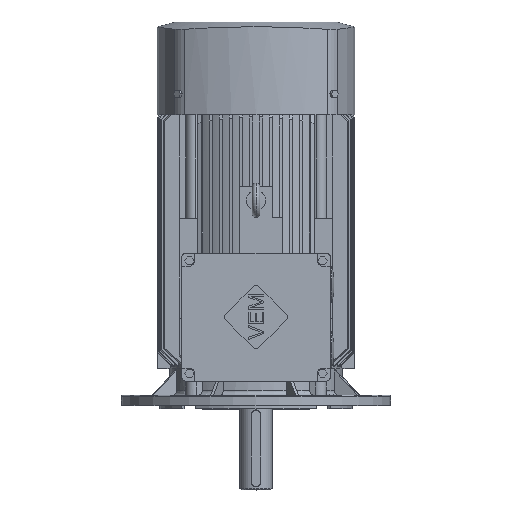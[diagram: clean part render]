
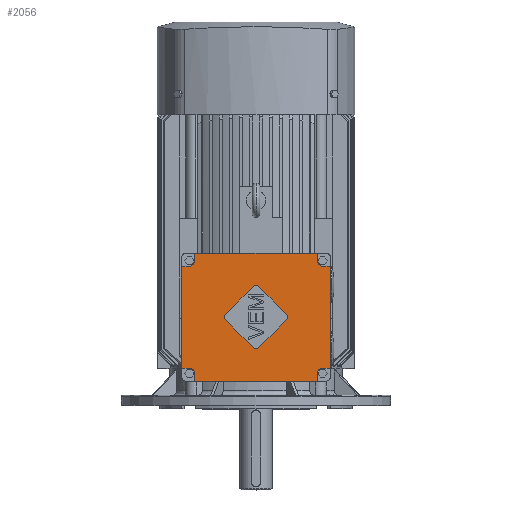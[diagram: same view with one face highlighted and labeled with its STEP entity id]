
A CAD part, top view. The second image highlights one B-rep face of the part: STEP entity #2056.
In plain terms, the highlighted planar face has unit normal (0, 0, 1).
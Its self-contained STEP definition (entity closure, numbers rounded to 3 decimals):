
#2056=ADVANCED_FACE('',(#4177,#4178),#4179,.T.);
#4177=FACE_BOUND('',#6409,.T.);
#4178=FACE_OUTER_BOUND('',#6410,.T.);
#4179=PLANE('',#6411);
#6409=EDGE_LOOP('',(#12812,#12813,#12814,#12815,#12816,#12817,#12818,#12819,#12820,#12821));
#6410=EDGE_LOOP('',(#12822,#12823,#12824,#12825,#12826,#12827,#12828,#12829,#12830,#12831,#12832,#12833,#12834,#12835,#12836,#12837));
#6411=AXIS2_PLACEMENT_3D('',#12838,#12839,#12840);
#12812=ORIENTED_EDGE('',*,*,#15459,.T.);
#12813=ORIENTED_EDGE('',*,*,#15455,.T.);
#12814=ORIENTED_EDGE('',*,*,#15451,.T.);
#12815=ORIENTED_EDGE('',*,*,#15447,.T.);
#12816=ORIENTED_EDGE('',*,*,#15442,.T.);
#12817=ORIENTED_EDGE('',*,*,#15542,.T.);
#12818=ORIENTED_EDGE('',*,*,#15579,.T.);
#12819=ORIENTED_EDGE('',*,*,#15591,.T.);
#12820=ORIENTED_EDGE('',*,*,#15625,.T.);
#12821=ORIENTED_EDGE('',*,*,#15584,.T.);
#12822=ORIENTED_EDGE('',*,*,#15780,.T.);
#12823=ORIENTED_EDGE('',*,*,#15776,.T.);
#12824=ORIENTED_EDGE('',*,*,#15772,.T.);
#12825=ORIENTED_EDGE('',*,*,#15787,.F.);
#12826=ORIENTED_EDGE('',*,*,#15788,.T.);
#12827=ORIENTED_EDGE('',*,*,#15789,.T.);
#12828=ORIENTED_EDGE('',*,*,#15790,.T.);
#12829=ORIENTED_EDGE('',*,*,#15791,.F.);
#12830=ORIENTED_EDGE('',*,*,#15792,.T.);
#12831=ORIENTED_EDGE('',*,*,#15793,.T.);
#12832=ORIENTED_EDGE('',*,*,#15794,.T.);
#12833=ORIENTED_EDGE('',*,*,#15795,.F.);
#12834=ORIENTED_EDGE('',*,*,#15796,.T.);
#12835=ORIENTED_EDGE('',*,*,#15797,.T.);
#12836=ORIENTED_EDGE('',*,*,#15798,.T.);
#12837=ORIENTED_EDGE('',*,*,#15799,.F.);
#12838=CARTESIAN_POINT('',(0.0,66.5,211.0));
#12839=DIRECTION('',(0.0,-0.0,1.0));
#12840=DIRECTION('',(0.0,1.0,0.0));
#15442=EDGE_CURVE('',#19168,#19169,#19170,.T.);
#15447=EDGE_CURVE('',#19177,#19168,#19178,.T.);
#15451=EDGE_CURVE('',#19183,#19177,#19184,.T.);
#15455=EDGE_CURVE('',#19189,#19183,#19190,.T.);
#15459=EDGE_CURVE('',#19195,#19189,#19196,.T.);
#15542=EDGE_CURVE('',#19169,#19324,#19325,.T.);
#15579=EDGE_CURVE('',#19324,#19385,#19386,.T.);
#15584=EDGE_CURVE('',#19391,#19195,#19392,.T.);
#15591=EDGE_CURVE('',#19385,#19401,#19402,.T.);
#15625=EDGE_CURVE('',#19401,#19391,#19443,.T.);
#15772=EDGE_CURVE('',#19653,#19651,#19654,.T.);
#15776=EDGE_CURVE('',#19659,#19653,#19660,.T.);
#15780=EDGE_CURVE('',#19665,#19659,#19666,.T.);
#15787=EDGE_CURVE('',#19675,#19651,#19676,.T.);
#15788=EDGE_CURVE('',#19675,#19677,#19678,.T.);
#15789=EDGE_CURVE('',#19677,#19679,#19680,.T.);
#15790=EDGE_CURVE('',#19679,#19681,#19682,.T.);
#15791=EDGE_CURVE('',#19683,#19681,#19684,.T.);
#15792=EDGE_CURVE('',#19683,#19685,#19686,.T.);
#15793=EDGE_CURVE('',#19685,#19687,#19688,.T.);
#15794=EDGE_CURVE('',#19687,#19689,#19690,.T.);
#15795=EDGE_CURVE('',#19691,#19689,#19692,.T.);
#15796=EDGE_CURVE('',#19691,#19693,#19694,.T.);
#15797=EDGE_CURVE('',#19693,#19695,#19696,.T.);
#15798=EDGE_CURVE('',#19695,#19697,#19698,.T.);
#15799=EDGE_CURVE('',#19665,#19697,#19699,.T.);
#19168=VERTEX_POINT('',#29856);
#19169=VERTEX_POINT('',#29857);
#19170=LINE('',#29858,#29859);
#19177=VERTEX_POINT('',#29869);
#19178=CIRCLE('',#29870,5.0);
#19183=VERTEX_POINT('',#29876);
#19184=LINE('',#29877,#29878);
#19189=VERTEX_POINT('',#29885);
#19190=CIRCLE('',#29886,5.0);
#19195=VERTEX_POINT('',#29892);
#19196=CIRCLE('',#29893,5.0);
#19324=VERTEX_POINT('',#30082);
#19325=CIRCLE('',#30083,5.0);
#19385=VERTEX_POINT('',#30183);
#19386=CIRCLE('',#30184,5.0);
#19391=VERTEX_POINT('',#30195);
#19392=LINE('',#30196,#30197);
#19401=VERTEX_POINT('',#30210);
#19402=LINE('',#30211,#30212);
#19443=CIRCLE('',#30281,5.0);
#19651=VERTEX_POINT('',#30688);
#19653=VERTEX_POINT('',#30691);
#19654=LINE('',#30692,#30693);
#19659=VERTEX_POINT('',#30699);
#19660=CIRCLE('',#30700,7.0);
#19665=VERTEX_POINT('',#30707);
#19666=LINE('',#30708,#30709);
#19675=VERTEX_POINT('',#30721);
#19676=LINE('',#30722,#30723);
#19677=VERTEX_POINT('',#30724);
#19678=LINE('',#30725,#30726);
#19679=VERTEX_POINT('',#30727);
#19680=CIRCLE('',#30728,7.0);
#19681=VERTEX_POINT('',#30729);
#19682=LINE('',#30730,#30731);
#19683=VERTEX_POINT('',#30732);
#19684=LINE('',#30733,#30734);
#19685=VERTEX_POINT('',#30735);
#19686=LINE('',#30736,#30737);
#19687=VERTEX_POINT('',#30738);
#19688=CIRCLE('',#30739,7.0);
#19689=VERTEX_POINT('',#30740);
#19690=LINE('',#30741,#30742);
#19691=VERTEX_POINT('',#30743);
#19692=LINE('',#30744,#30745);
#19693=VERTEX_POINT('',#30746);
#19694=LINE('',#30747,#30748);
#19695=VERTEX_POINT('',#30749);
#19696=CIRCLE('',#30750,7.0);
#19697=VERTEX_POINT('',#30751);
#19698=LINE('',#30752,#30753);
#19699=LINE('',#30754,#30755);
#29856=CARTESIAN_POINT('',(-39.598,70.036,211.0));
#29857=CARTESIAN_POINT('',(-3.536,106.098,211.0));
#29858=CARTESIAN_POINT('',(-30.582,79.051,211.0));
#29859=VECTOR('',#33240,1.0);
#29869=CARTESIAN_POINT('',(-39.598,62.964,211.0));
#29870=AXIS2_PLACEMENT_3D('',#33244,#33245,#33246);
#29876=CARTESIAN_POINT('',(-3.536,26.902,211.0));
#29877=CARTESIAN_POINT('',(-12.551,35.918,211.0));
#29878=VECTOR('',#33251,1.0);
#29885=CARTESIAN_POINT('',(0.,25.438,211.0));
#29886=AXIS2_PLACEMENT_3D('',#33254,#33255,#33256);
#29892=CARTESIAN_POINT('',(3.536,26.902,211.0));
#29893=AXIS2_PLACEMENT_3D('',#33261,#33262,#33263);
#30082=CARTESIAN_POINT('',(0.,107.562,211.0));
#30083=AXIS2_PLACEMENT_3D('',#33328,#33329,#33330);
#30183=CARTESIAN_POINT('',(3.536,106.098,211.0));
#30184=AXIS2_PLACEMENT_3D('',#33363,#33364,#33365);
#30195=CARTESIAN_POINT('',(39.598,62.964,211.0));
#30196=CARTESIAN_POINT('',(30.582,53.949,211.0));
#30197=VECTOR('',#33367,1.0);
#30210=CARTESIAN_POINT('',(39.598,70.036,211.0));
#30211=CARTESIAN_POINT('',(12.551,97.082,211.0));
#30212=VECTOR('',#33372,1.0);
#30281=AXIS2_PLACEMENT_3D('',#33391,#33392,#33393);
#30688=CARTESIAN_POINT('',(79.75,149.75,211.0));
#30691=CARTESIAN_POINT('',(79.75,139.75,211.0));
#30692=CARTESIAN_POINT('',(79.75,105.625,211.0));
#30693=VECTOR('',#33496,1.0);
#30699=CARTESIAN_POINT('',(86.75,132.75,211.0));
#30700=AXIS2_PLACEMENT_3D('',#33501,#33502,#33503);
#30707=CARTESIAN_POINT('',(96.75,132.75,211.0));
#30708=CARTESIAN_POINT('',(45.875,132.75,211.0));
#30709=VECTOR('',#33506,1.0);
#30721=CARTESIAN_POINT('',(-79.75,149.75,211.0));
#30722=CARTESIAN_POINT('',(90.75,149.75,211.0));
#30723=VECTOR('',#33513,1.0);
#30724=CARTESIAN_POINT('',(-79.75,139.75,211.0));
#30725=CARTESIAN_POINT('',(-79.75,105.625,211.0));
#30726=VECTOR('',#33514,1.0);
#30727=CARTESIAN_POINT('',(-86.75,132.75,211.0));
#30728=AXIS2_PLACEMENT_3D('',#33515,#33516,#33517);
#30729=CARTESIAN_POINT('',(-96.75,132.75,211.0));
#30730=CARTESIAN_POINT('',(-45.875,132.75,211.0));
#30731=VECTOR('',#33518,1.0);
#30732=CARTESIAN_POINT('',(-96.75,0.25,211.0));
#30733=CARTESIAN_POINT('',(-96.75,143.75,211.0));
#30734=VECTOR('',#33519,1.0);
#30735=CARTESIAN_POINT('',(-86.75,0.25,211.0));
#30736=CARTESIAN_POINT('',(-45.875,0.25,211.0));
#30737=VECTOR('',#33520,1.0);
#30738=CARTESIAN_POINT('',(-79.75,-6.75,211.0));
#30739=AXIS2_PLACEMENT_3D('',#33521,#33522,#33523);
#30740=CARTESIAN_POINT('',(-79.75,-16.75,211.0));
#30741=CARTESIAN_POINT('',(-79.75,27.375,211.0));
#30742=VECTOR('',#33524,1.0);
#30743=CARTESIAN_POINT('',(79.75,-16.75,211.0));
#30744=CARTESIAN_POINT('',(-90.75,-16.75,211.0));
#30745=VECTOR('',#33525,1.0);
#30746=CARTESIAN_POINT('',(79.75,-6.75,211.0));
#30747=CARTESIAN_POINT('',(79.75,27.375,211.0));
#30748=VECTOR('',#33526,1.0);
#30749=CARTESIAN_POINT('',(86.75,0.25,211.0));
#30750=AXIS2_PLACEMENT_3D('',#33527,#33528,#33529);
#30751=CARTESIAN_POINT('',(96.75,0.25,211.0));
#30752=CARTESIAN_POINT('',(45.875,0.25,211.0));
#30753=VECTOR('',#33530,1.0);
#30754=CARTESIAN_POINT('',(96.75,66.5,211.0));
#30755=VECTOR('',#33531,1.0);
#33240=DIRECTION('',(0.707,0.707,-0.0));
#33244=CARTESIAN_POINT('',(-36.062,66.5,211.0));
#33245=DIRECTION('',(-0.0,-0.0,-1.0));
#33246=DIRECTION('',(0.0,-1.0,0.0));
#33251=DIRECTION('',(-0.707,0.707,0.0));
#33254=CARTESIAN_POINT('',(0.,30.438,211.0));
#33255=DIRECTION('',(-0.0,-0.0,-1.0));
#33256=DIRECTION('',(0.0,-1.0,0.0));
#33261=CARTESIAN_POINT('',(0.,30.438,211.0));
#33262=DIRECTION('',(-0.0,-0.0,-1.0));
#33263=DIRECTION('',(0.0,-1.0,0.0));
#33328=CARTESIAN_POINT('',(0.,102.562,211.0));
#33329=DIRECTION('',(-0.0,-0.0,-1.0));
#33330=DIRECTION('',(0.0,-1.0,0.0));
#33363=CARTESIAN_POINT('',(0.,102.562,211.0));
#33364=DIRECTION('',(-0.0,-0.0,-1.0));
#33365=DIRECTION('',(0.0,-1.0,0.0));
#33367=DIRECTION('',(-0.707,-0.707,0.0));
#33372=DIRECTION('',(0.707,-0.707,0.0));
#33391=CARTESIAN_POINT('',(36.062,66.5,211.0));
#33392=DIRECTION('',(-0.0,-0.0,-1.0));
#33393=DIRECTION('',(0.0,-1.0,0.0));
#33496=DIRECTION('',(0.0,1.0,-0.0));
#33501=CARTESIAN_POINT('',(86.75,139.75,211.0));
#33502=DIRECTION('',(0.0,-0.0,-1.0));
#33503=DIRECTION('',(0.,-1.0,0.0));
#33506=DIRECTION('',(-1.0,0.0,0.0));
#33513=DIRECTION('',(1.0,0.0,-0.0));
#33514=DIRECTION('',(0.0,-1.0,0.0));
#33515=CARTESIAN_POINT('',(-86.75,139.75,211.0));
#33516=DIRECTION('',(-0.0,0.0,-1.0));
#33517=DIRECTION('',(0.,-1.0,0.0));
#33518=DIRECTION('',(-1.0,0.0,0.0));
#33519=DIRECTION('',(0.0,1.0,0.0));
#33520=DIRECTION('',(1.0,0.0,0.0));
#33521=CARTESIAN_POINT('',(-86.75,-6.75,211.0));
#33522=DIRECTION('',(-0.0,0.0,-1.0));
#33523=DIRECTION('',(0.,1.0,0.0));
#33524=DIRECTION('',(0.0,-1.0,0.0));
#33525=DIRECTION('',(-1.0,0.0,0.0));
#33526=DIRECTION('',(0.0,1.0,-0.0));
#33527=CARTESIAN_POINT('',(86.75,-6.75,211.0));
#33528=DIRECTION('',(0.0,0.0,-1.0));
#33529=DIRECTION('',(0.,1.0,0.0));
#33530=DIRECTION('',(1.0,0.0,0.0));
#33531=DIRECTION('',(0.0,-1.0,-0.0));
